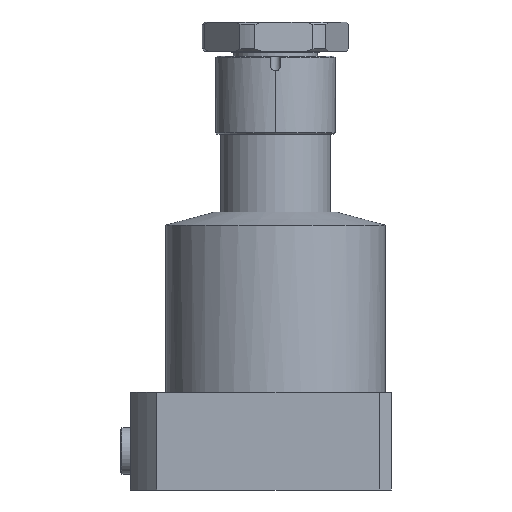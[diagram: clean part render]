
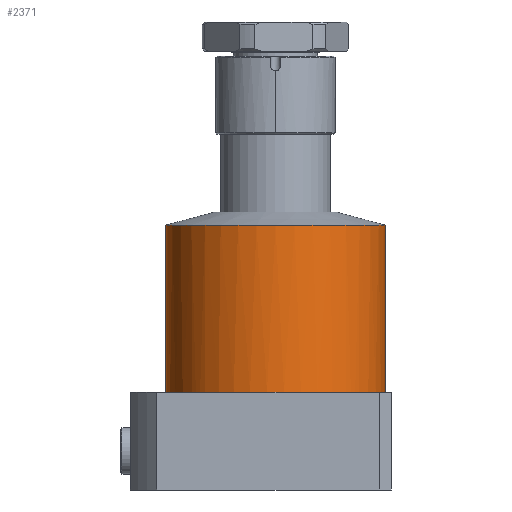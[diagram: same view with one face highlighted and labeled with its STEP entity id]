
A CAD part, front view. The second image highlights one B-rep face of the part: STEP entity #2371.
In plain terms, the highlighted cylindrical face has radius 45 mm (diameter 90 mm), a partial arc.
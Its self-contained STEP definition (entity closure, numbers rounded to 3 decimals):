
#12 = CIRCLE ( 'NONE', #10170, 45. ) ;
#103 = DIRECTION ( 'NONE',  ( -1., 0., 0. ) ) ;
#1102 = AXIS2_PLACEMENT_3D ( 'NONE', #13976, #5520, #15388 ) ;
#1145 = DIRECTION ( 'NONE',  ( 0., 0., -1. ) ) ;
#1345 = VERTEX_POINT ( 'NONE', #8113 ) ;
#1938 = CARTESIAN_POINT ( 'NONE',  ( 34.351, -29.069, 40. ) ) ;
#1985 = ORIENTED_EDGE ( 'NONE', *, *, #6991, .F. ) ;
#2080 = DIRECTION ( 'NONE',  ( 0., 0., -1. ) ) ;
#2121 = CARTESIAN_POINT ( 'NONE',  ( 0., 0., 40. ) ) ;
#2371 = ADVANCED_FACE ( 'NONE', ( #18026 ), #13392, .T. ) ;
#2559 = DIRECTION ( 'NONE',  ( -1., 0., 0. ) ) ;
#2574 = CIRCLE ( 'NONE', #12439, 45. ) ;
#3557 = DIRECTION ( 'NONE',  ( -1., 0., 0. ) ) ;
#3579 = AXIS2_PLACEMENT_3D ( 'NONE', #17044, #8594, #103 ) ;
#3641 = AXIS2_PLACEMENT_3D ( 'NONE', #13806, #11033, #2559 ) ;
#3832 = CARTESIAN_POINT ( 'NONE',  ( -45., 0., 108.641 ) ) ;
#3944 = ORIENTED_EDGE ( 'NONE', *, *, #10316, .F. ) ;
#4103 = VECTOR ( 'NONE', #7050, 1000. ) ;
#4413 = EDGE_CURVE ( 'NONE', #8921, #17065, #17555, .T. ) ;
#5102 = CARTESIAN_POINT ( 'NONE',  ( -45., 0., 114. ) ) ;
#5165 = DIRECTION ( 'NONE',  ( 0., 0., -1. ) ) ;
#5195 = AXIS2_PLACEMENT_3D ( 'NONE', #10554, #2080, #11966 ) ;
#5520 = DIRECTION ( 'NONE',  ( 0., 0., -1. ) ) ;
#5618 = CARTESIAN_POINT ( 'NONE',  ( 45., 0., 114. ) ) ;
#5725 = ORIENTED_EDGE ( 'NONE', *, *, #7230, .T. ) ;
#6246 = ORIENTED_EDGE ( 'NONE', *, *, #7842, .F. ) ;
#6385 = VERTEX_POINT ( 'NONE', #9731 ) ;
#6702 = EDGE_CURVE ( 'NONE', #15583, #14591, #2574, .T. ) ;
#6991 = EDGE_CURVE ( 'NONE', #10312, #15583, #15379, .T. ) ;
#7050 = DIRECTION ( 'NONE',  ( 0., 0., -1. ) ) ;
#7230 = EDGE_CURVE ( 'NONE', #13770, #14591, #10297, .T. ) ;
#7382 = ORIENTED_EDGE ( 'NONE', *, *, #6702, .F. ) ;
#7842 = EDGE_CURVE ( 'NONE', #6385, #8921, #8303, .T. ) ;
#8113 = CARTESIAN_POINT ( 'NONE',  ( 29.069, -34.351, 40. ) ) ;
#8303 = LINE ( 'NONE', #5618, #4103 ) ;
#8451 = CIRCLE ( 'NONE', #5195, 45. ) ;
#8594 = DIRECTION ( 'NONE',  ( 0., 0., -1. ) ) ;
#8921 = VERTEX_POINT ( 'NONE', #12752 ) ;
#9449 = EDGE_LOOP ( 'NONE', ( #6246, #12835, #5725, #7382, #1985, #3944, #15754, #14826 ) ) ;
#9613 = CARTESIAN_POINT ( 'NONE',  ( 0., 0., 40. ) ) ;
#9711 = CARTESIAN_POINT ( 'NONE',  ( -29.069, -34.351, 40. ) ) ;
#9731 = CARTESIAN_POINT ( 'NONE',  ( 45., 0., 108.641 ) ) ;
#9850 = VECTOR ( 'NONE', #13626, 1000. ) ;
#10170 = AXIS2_PLACEMENT_3D ( 'NONE', #9613, #1145, #11046 ) ;
#10297 = LINE ( 'NONE', #5102, #9850 ) ;
#10312 = VERTEX_POINT ( 'NONE', #9711 ) ;
#10316 = EDGE_CURVE ( 'NONE', #1345, #10312, #12357, .T. ) ;
#10554 = CARTESIAN_POINT ( 'NONE',  ( 0., 0., 108.641 ) ) ;
#10711 = CARTESIAN_POINT ( 'NONE',  ( -45., 0., 40. ) ) ;
#11033 = DIRECTION ( 'NONE',  ( 0., 0., -1. ) ) ;
#11046 = DIRECTION ( 'NONE',  ( -1., 0., 0. ) ) ;
#11910 = CARTESIAN_POINT ( 'NONE',  ( -34.351, -29.069, 40. ) ) ;
#11966 = DIRECTION ( 'NONE',  ( -1., 0., 0. ) ) ;
#12006 = DIRECTION ( 'NONE',  ( 0., 0., -1. ) ) ;
#12357 = CIRCLE ( 'NONE', #1102, 45. ) ;
#12439 = AXIS2_PLACEMENT_3D ( 'NONE', #2121, #12006, #3557 ) ;
#12752 = CARTESIAN_POINT ( 'NONE',  ( 45., 0., 40. ) ) ;
#12835 = ORIENTED_EDGE ( 'NONE', *, *, #15605, .T. ) ;
#13392 = CYLINDRICAL_SURFACE ( 'NONE', #3641, 45. ) ;
#13626 = DIRECTION ( 'NONE',  ( 0., 0., -1. ) ) ;
#13632 = CARTESIAN_POINT ( 'NONE',  ( 0., 0., 40. ) ) ;
#13770 = VERTEX_POINT ( 'NONE', #3832 ) ;
#13806 = CARTESIAN_POINT ( 'NONE',  ( 0., 0., 114. ) ) ;
#13976 = CARTESIAN_POINT ( 'NONE',  ( 0., 0., 40. ) ) ;
#14591 = VERTEX_POINT ( 'NONE', #10711 ) ;
#14826 = ORIENTED_EDGE ( 'NONE', *, *, #4413, .F. ) ;
#15052 = DIRECTION ( 'NONE',  ( -1., 0., 0. ) ) ;
#15379 = CIRCLE ( 'NONE', #3579, 45. ) ;
#15388 = DIRECTION ( 'NONE',  ( -1., 0., 0. ) ) ;
#15583 = VERTEX_POINT ( 'NONE', #11910 ) ;
#15605 = EDGE_CURVE ( 'NONE', #6385, #13770, #8451, .T. ) ;
#15754 = ORIENTED_EDGE ( 'NONE', *, *, #16684, .F. ) ;
#15826 = AXIS2_PLACEMENT_3D ( 'NONE', #13632, #5165, #15052 ) ;
#16684 = EDGE_CURVE ( 'NONE', #17065, #1345, #12, .T. ) ;
#17044 = CARTESIAN_POINT ( 'NONE',  ( 0., 0., 40. ) ) ;
#17065 = VERTEX_POINT ( 'NONE', #1938 ) ;
#17555 = CIRCLE ( 'NONE', #15826, 45. ) ;
#18026 = FACE_OUTER_BOUND ( 'NONE', #9449, .T. ) ;
